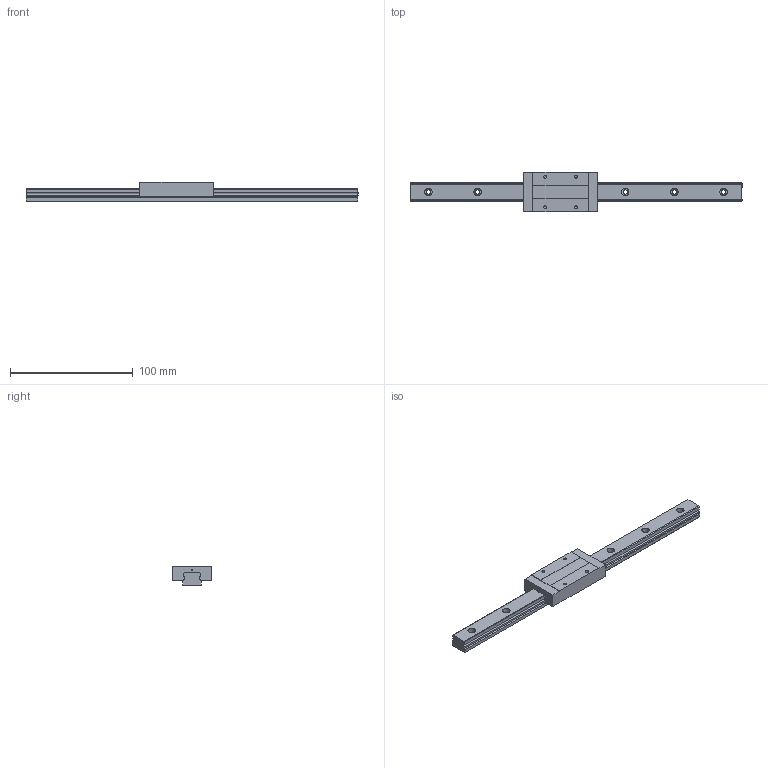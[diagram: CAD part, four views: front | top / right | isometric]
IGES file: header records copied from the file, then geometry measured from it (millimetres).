
Global section: file name: No Iges File Name specified; native system: AutoDesk Inventor R10; preprocessor: AutoDesk Inventor Iges Exporter R10; author: No Author specified; organization: No Organization specified; date: 20101222.162556; units: millimetre
Bounding box: 270 x 32 x 16 mm (x, y, z)
Surface area: 22206.6 mm2 (no closed solid volume)
Topology: 0 solids, 0 shells, 99 faces, 660 edges, 652 vertices
Faces by surface type: bspline 99
